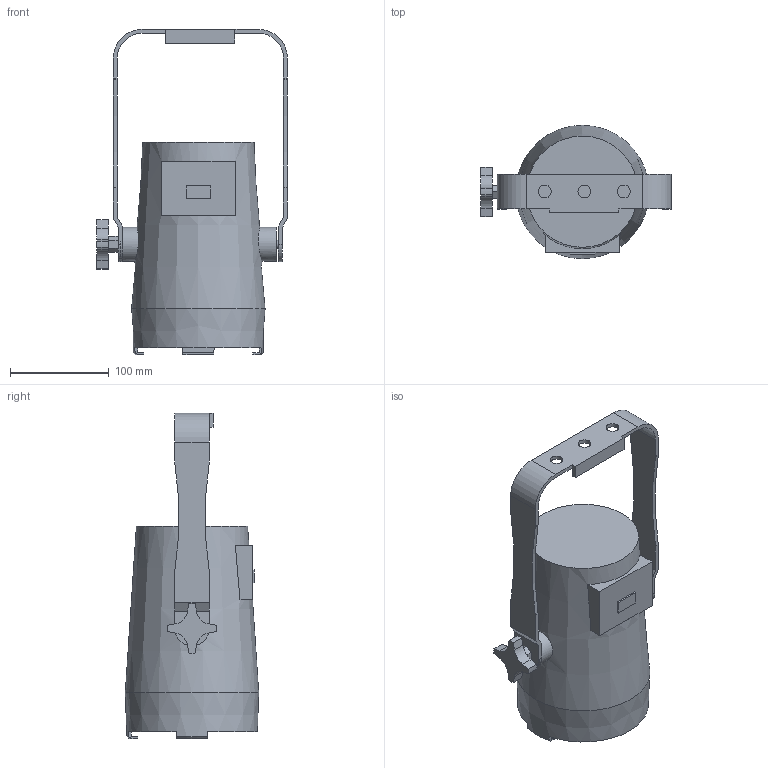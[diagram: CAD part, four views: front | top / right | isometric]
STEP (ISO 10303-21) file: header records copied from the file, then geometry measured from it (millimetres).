
FILE_DESCRIPTION(/* description */ (''),/* implementation_level */ '2;1');
FILE_NAME(/* name */ 'D:/dgooch/Documents/CADENG/PRO/COLORado M Solo/0/3D/COLORADO M SOLO_0.step',/* time_stamp */ '2019-09-11T11:29:11-04:00',/* author */ (''),/* organization */ (''),/* preprocessor_version */ 'ST-DEVELOPER v18',/* originating_system */ 'Autodesk Translation Framework v8.6.0.1094',/* authorisation */ '');
FILE_SCHEMA (('AUTOMOTIVE_DESIGN { 1 0 10303 214 3 1 1 }'));
Length unit declared in the file: millimetre
Products named in the file (3): COLORADO M SOLO; Bracket; Main
Assembly tree (2 placements, depth 2):
  COLORADO M SOLO
    Bracket
    Main
Bounding box: 192.87 x 135 x 329 mm (x, y, z)
Volume: 2702482.2 mm3; surface area: 175029.4 mm2
Topology: 2 solids, 2 shells, 112 faces, 311 edges, 210 vertices
Faces by surface type: plane 76, cylinder 31, cone 5
Full cylindrical faces by diameter (mm): 8 x2, 8.5 x1, 13 x3, 34.475 x2, 101 x1
Entity records: 3865 total; most frequent: CARTESIAN_POINT 814, DIRECTION 624, ORIENTED_EDGE 622, EDGE_CURVE 311, VERTEX_POINT 210, LINE 208, VECTOR 208, AXIS2_PLACEMENT_3D 208
